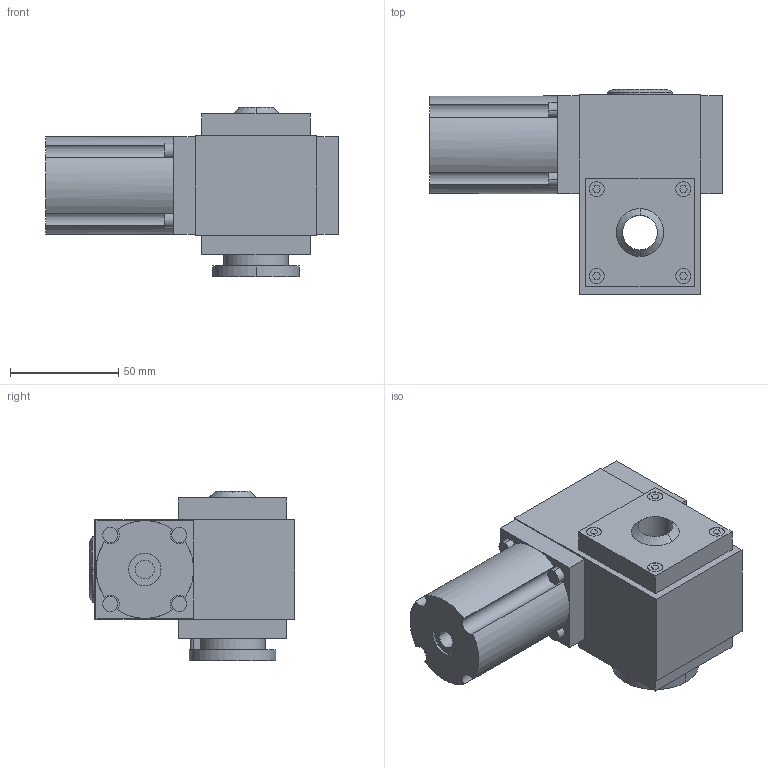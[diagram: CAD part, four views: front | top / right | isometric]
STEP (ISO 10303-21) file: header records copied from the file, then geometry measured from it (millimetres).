
FILE_DESCRIPTION((''),'2;1');
FILE_NAME('0821401131','2023-08-01T11:15:25',('THD3HC'),(''),'CREO PARAMETRIC BY PTC INC, 2020044','CREO PARAMETRIC BY PTC INC, 2020044','');
FILE_SCHEMA(('CONFIG_CONTROL_DESIGN','SHAPE_APPEARANCE_LAYERS_GROUPS'));
Length unit declared in the file: millimetre
Products named in the file (1): 0821401131
Bounding box: 135 x 94.5 x 78 mm (x, y, z)
Volume: 408664.5 mm3; surface area: 47464.8 mm2
Topology: 1 solids, 1 shells, 171 faces, 396 edges, 262 vertices
Faces by surface type: plane 111, cylinder 56, cone 4
Entity records: 7128 total; most frequent: DIRECTION 860, CARTESIAN_POINT 829, ORIENTED_EDGE 792, PRESENTATION_STYLE_ASSIGNMENT 480, STYLED_ITEM 397, CURVE_STYLE 396, EDGE_CURVE 396, AXIS2_PLACEMENT_3D 293
